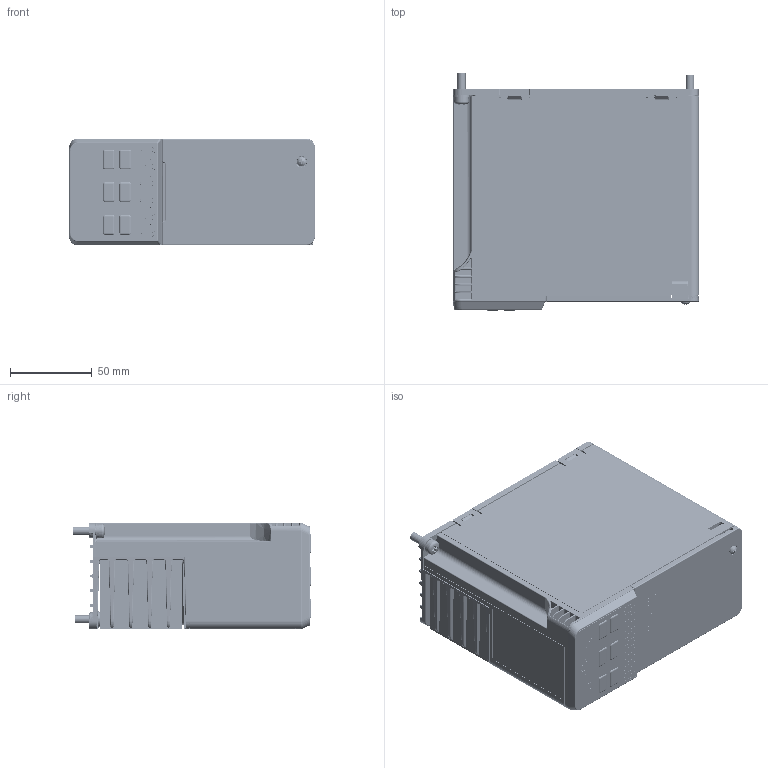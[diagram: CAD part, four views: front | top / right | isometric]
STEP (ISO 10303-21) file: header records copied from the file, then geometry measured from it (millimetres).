
FILE_DESCRIPTION(/* description */ (''),/* implementation_level */ '2;1');
FILE_NAME(/* name */ 'Veda VF-11 S2 C1.stp',/* time_stamp */ '2025-10-18T11:11:45+04:00',/* author */ ('Александр (огранич)'),/* organization */ (''),/* preprocessor_version */ 'ST-DEVELOPER v19.2',/* originating_system */ 'Autodesk Inventor 2024',/* authorisation */ '');
FILE_SCHEMA (('AUTOMOTIVE_DESIGN { 1 0 10303 214 3 1 1 }'));
Products named in the file (55): 0-AC01-S2-R75G_ASM_ASM_ASM; 0-AC01-S2-R75G_ASM_ASM_1_ASM; 0-AC01-S2-R75G_ASM_5_ASM_1_ASM; AC01-S2-R75G-D_ASM_4_ASM_1_ASM; MAIN_PCB_ASM_3_ASM_1_ASM; MAIN_PCB_DEVICE_7_ASM_1_ASM; MAIN_PCB_DEVICE_7_4_1; MAIN_PCB_DEVICE_7_5_1; MAIN_PCB_DEVICE_7_6_1; RJ45-180D_8_1; BA1_5-XX-7_62-24_0420_3_1; EU1_5-XX-5_08-03B_0420_8_1; TONGPIAN_3_1; AC01-S2-R75G-H_ASM_4_ASM_1_ASM; AC01-S2-R75G-H001_4_1_ASM; AC01-S2-R75G-H001_4_1_1; AC01-S2-R75G-H001_4_1_2; AC01-S2-R75G-H001_4_1_3; AC01-S2-R75G-VEDA-P_ASM_21_ASM__ASM; AC01-S2-R75G-VEDA-P004_ASM_20_A_ASM; AC01-S2-R75G-VEDA-P001_29_1; AC01-S2-R75G-P003_54_1; AC01-S2-R75G-VEDA-P002_55_1; AC01-S2-R75G-S_ASM_4_ASM_1_ASM; M4X10_GB9074_8_8_1; ST2_9X9_5_3_1; M3X10_GB9074_8_8_1; M5X16_GB9074_8_8_1; KBD01-15_ASM_22_ASM_1_ASM; KBD01-15-VEDA-P001_58_1_ASM; KBD01-15-VEDA-P001_58_1_1; KBD01-15-VEDA-P001_58_1_2; KBD01-15-VEDA-P001_58_1_3; KBD01-15-VEDA-P001_58_1_4; KBD01-15-VEDA-P001_58_1_5; KBD01-15-VEDA-P001_58_1_6; KBD01-15-VEDA-P001_58_1_7; KBD01-15-PCB_ASM_8_ASM_1_ASM; RJ45_CRYSTAL_8_ASM_1_ASM; RJ45_CRYSTAL_8_1_1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
Assembly tree (59 placements, depth 7):
  0-AC01-S2-R75G_ASM_ASM_ASM
    0-AC01-S2-R75G_ASM_ASM_1_ASM
      0-AC01-S2-R75G_ASM_5_ASM_1_ASM
        AC01-S2-R75G-D_ASM_4_ASM_1_ASM
          MAIN_PCB_ASM_3_ASM_1_ASM
            MAIN_PCB_DEVICE_7_ASM_1_ASM
              MAIN_PCB_DEVICE_7_4_1
              MAIN_PCB_DEVICE_7_5_1
              MAIN_PCB_DEVICE_7_6_1
            RJ45-180D_8_1
            BA1_5-XX-7_62-24_0420_3_1
            EU1_5-XX-5_08-03B_0420_8_1
          TONGPIAN_3_1
        AC01-S2-R75G-H_ASM_4_ASM_1_ASM
          AC01-S2-R75G-H001_4_1_ASM
            AC01-S2-R75G-H001_4_1_1
            AC01-S2-R75G-H001_4_1_2
            AC01-S2-R75G-H001_4_1_3
        AC01-S2-R75G-VEDA-P_ASM_21_ASM__ASM
          AC01-S2-R75G-VEDA-P004_ASM_20_A_ASM
            AC01-S2-R75G-VEDA-P001_29_1
            AC01-S2-R75G-P003_54_1
          AC01-S2-R75G-VEDA-P002_55_1
        AC01-S2-R75G-S_ASM_4_ASM_1_ASM
          M4X10_GB9074_8_8_1  x2
          ST2_9X9_5_3_1
          M3X10_GB9074_8_8_1  x3
          M5X16_GB9074_8_8_1  x2
        KBD01-15_ASM_22_ASM_1_ASM
          KBD01-15-VEDA-P001_58_1_ASM
            KBD01-15-VEDA-P001_58_1_1
            KBD01-15-VEDA-P001_58_1_2
            KBD01-15-VEDA-P001_58_1_3
            KBD01-15-VEDA-P001_58_1_4
            KBD01-15-VEDA-P001_58_1_5
            KBD01-15-VEDA-P001_58_1_6
            KBD01-15-VEDA-P001_58_1_7
          KBD01-15-PCB_ASM_8_ASM_1_ASM
            RJ45_CRYSTAL_8_ASM_1_ASM
              RJ45_CRYSTAL_8_1_1
              RJ45_CRYSTAL_8_2_1
              RJ45_CRYSTAL_8_3_1
              RJ45_CRYSTAL_8_4_1
              RJ45_CRYSTAL_8_5_1
              RJ45_CRYSTAL_8_6_1
              RJ45_CRYSTAL_8_7_1
              RJ45_CRYSTAL_8_8_1
              RJ45_CRYSTAL_8_9_1
              RJ45_CRYSTAL_8_10_1
              RJ45_CRYSTAL_8_11_1
            LED0402_8_1
            LED0603_8_1  x2
            DDDD_8_1
          KBD01-15-VEDA-F001
    Логотип VEDAMCD
Bounding box: 150.1 x 145.3 x 65 mm (x, y, z)
Volume: 544387.5 mm3; surface area: 242287 mm2
Topology: 45 solids, 45 shells, 10845 faces, 30809 edges, 22257 vertices
Faces by surface type: plane 7290, cylinder 1546, cone 980, bspline 728, torus 219, sphere 82
Full cylindrical faces by diameter (mm): 0.5 x8, 0.7 x8, 0.8 x6, 1.3 x6, 2 x2, 2.2 x14, 2.4 x1, 2.5 x1, 2.7 x8, 2.8 x8, 2.9 x1, 3 x107, 3.15 x14, 3.5 x10, 4 x38, 5 x5, 5.23 x3, 5.5 x3, 5.6 x2, 6 x3, 6.78 x2, 7 x5, 8.75 x2, 9 x4, 10 x2
Entity records: 471278 total; most frequent: CARTESIAN_POINT 192773, ORIENTED_EDGE 57846, DIRECTION 52780, EDGE_CURVE 28923, LINE 20656, VECTOR 20656, VERTEX_POINT 18927, AXIS2_PLACEMENT_3D 16062
